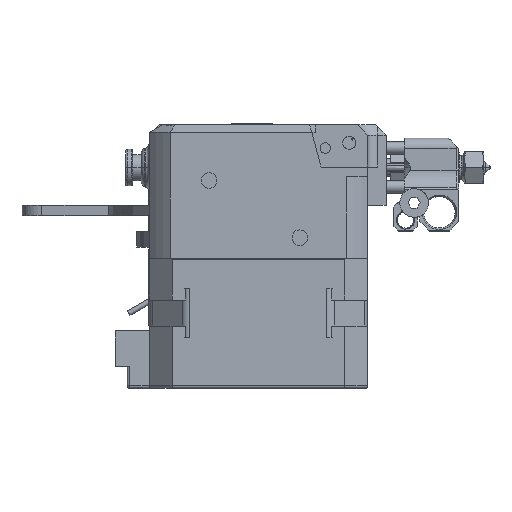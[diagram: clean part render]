
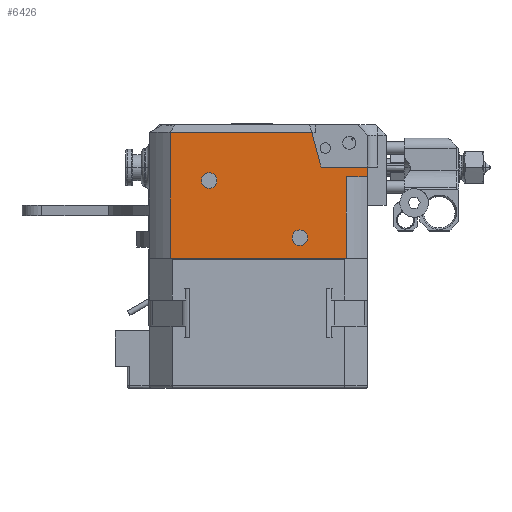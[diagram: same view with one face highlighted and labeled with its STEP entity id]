
A CAD part, left-side view. The second image highlights one B-rep face of the part: STEP entity #6426.
In plain terms, the highlighted planar face has unit normal (-1, 0, 0).
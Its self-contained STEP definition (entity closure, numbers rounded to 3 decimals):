
#474 = EDGE_CURVE ( 'NONE', #6330, #23727, #20274, .T. ) ;
#477 = CIRCLE ( 'NONE', #22681, 1.5 ) ;
#500 = VERTEX_POINT ( 'NONE', #3889 ) ;
#966 = ORIENTED_EDGE ( 'NONE', *, *, #15132, .F. ) ;
#1444 = ORIENTED_EDGE ( 'NONE', *, *, #8059, .F. ) ;
#1468 = DIRECTION ( 'NONE',  ( 0., 0., 1. ) ) ;
#1582 = VECTOR ( 'NONE', #30276, 1000. ) ;
#1860 = CARTESIAN_POINT ( 'NONE',  ( -21., -16.971, 50.75 ) ) ;
#2374 = AXIS2_PLACEMENT_3D ( 'NONE', #2607, #7403, #21463 ) ;
#2379 = CARTESIAN_POINT ( 'NONE',  ( -21., -11., 40.75 ) ) ;
#2454 = CARTESIAN_POINT ( 'NONE',  ( -21., -12.074, 42.6 ) ) ;
#2607 = CARTESIAN_POINT ( 'NONE',  ( -21., -21., 25. ) ) ;
#2706 = LINE ( 'NONE', #16317, #23076 ) ;
#3355 = LINE ( 'NONE', #15248, #22271 ) ;
#3690 = ORIENTED_EDGE ( 'NONE', *, *, #29368, .T. ) ;
#3889 = CARTESIAN_POINT ( 'NONE',  ( -21., -8., 27.5 ) ) ;
#4205 = EDGE_CURVE ( 'NONE', #27020, #19114, #21544, .T. ) ;
#4448 = VERTEX_POINT ( 'NONE', #16234 ) ;
#5005 = CARTESIAN_POINT ( 'NONE',  ( -21., -16.971, 25. ) ) ;
#5063 = CARTESIAN_POINT ( 'NONE',  ( -21., 9.45, 38.5 ) ) ;
#5384 = FACE_OUTER_BOUND ( 'NONE', #29291, .T. ) ;
#5461 = DIRECTION ( 'NONE',  ( 0., -1., 0. ) ) ;
#6330 = VERTEX_POINT ( 'NONE', #2454 ) ;
#6426 = ADVANCED_FACE ( 'NONE', ( #5384, #16673, #14354 ), #12042, .F. ) ;
#6590 = VERTEX_POINT ( 'NONE', #5005 ) ;
#7123 = EDGE_CURVE ( 'NONE', #8886, #28980, #23474, .T. ) ;
#7152 = AXIS2_PLACEMENT_3D ( 'NONE', #26650, #22025, #7988 ) ;
#7308 = CARTESIAN_POINT ( 'NONE',  ( -21., -21., 42.6 ) ) ;
#7403 = DIRECTION ( 'NONE',  ( 1., 0., 0. ) ) ;
#7988 = DIRECTION ( 'NONE',  ( 0., 0., 1. ) ) ;
#8059 = EDGE_CURVE ( 'NONE', #11183, #6590, #8812, .T. ) ;
#8316 = EDGE_CURVE ( 'NONE', #19114, #27020, #477, .T. ) ;
#8722 = CARTESIAN_POINT ( 'NONE',  ( -21., -8., 29. ) ) ;
#8812 = LINE ( 'NONE', #1860, #23166 ) ;
#8886 = VERTEX_POINT ( 'NONE', #20170 ) ;
#9703 = ORIENTED_EDGE ( 'NONE', *, *, #20204, .T. ) ;
#9739 = EDGE_CURVE ( 'NONE', #500, #4448, #19749, .T. ) ;
#10080 = CARTESIAN_POINT ( 'NONE',  ( -21., 9.45, 40. ) ) ;
#11183 = VERTEX_POINT ( 'NONE', #21508 ) ;
#11430 = CARTESIAN_POINT ( 'NONE',  ( -21., 16.971, 50.75 ) ) ;
#11593 = CARTESIAN_POINT ( 'NONE',  ( -21., 9.45, 40. ) ) ;
#12042 = PLANE ( 'NONE',  #2374 ) ;
#12273 = LINE ( 'NONE', #2379, #22843 ) ;
#12723 = DIRECTION ( 'NONE',  ( 0., 0., -1. ) ) ;
#12827 = ORIENTED_EDGE ( 'NONE', *, *, #7123, .T. ) ;
#13581 = ORIENTED_EDGE ( 'NONE', *, *, #474, .T. ) ;
#13695 = ORIENTED_EDGE ( 'NONE', *, *, #20990, .T. ) ;
#14079 = CARTESIAN_POINT ( 'NONE',  ( -21., 16.971, 25. ) ) ;
#14160 = DIRECTION ( 'NONE',  ( 0., 0., 1. ) ) ;
#14354 = FACE_BOUND ( 'NONE', #18911, .T. ) ;
#14974 = CARTESIAN_POINT ( 'NONE',  ( -21., 9.45, 41.5 ) ) ;
#15132 = EDGE_CURVE ( 'NONE', #4448, #500, #17011, .T. ) ;
#15222 = VECTOR ( 'NONE', #18698, 1000. ) ;
#15248 = CARTESIAN_POINT ( 'NONE',  ( -21., 16.971, 25. ) ) ;
#15700 = VERTEX_POINT ( 'NONE', #27532 ) ;
#15795 = EDGE_CURVE ( 'NONE', #15700, #6330, #28597, .T. ) ;
#16234 = CARTESIAN_POINT ( 'NONE',  ( -21., -8., 30.5 ) ) ;
#16317 = CARTESIAN_POINT ( 'NONE',  ( -21., -21., 40.75 ) ) ;
#16416 = DIRECTION ( 'NONE',  ( 0., 1., 0. ) ) ;
#16673 = FACE_BOUND ( 'NONE', #28949, .T. ) ;
#17011 = CIRCLE ( 'NONE', #7152, 1.5 ) ;
#17814 = CARTESIAN_POINT ( 'NONE',  ( -21., -17.072, 23.947 ) ) ;
#18109 = LINE ( 'NONE', #20891, #1582 ) ;
#18304 = DIRECTION ( 'NONE',  ( -1., 0., 0. ) ) ;
#18546 = DIRECTION ( 'NONE',  ( 0., 0., 1. ) ) ;
#18698 = DIRECTION ( 'NONE',  ( 0., 0., -1. ) ) ;
#18911 = EDGE_LOOP ( 'NONE', ( #21455, #21387 ) ) ;
#19083 = AXIS2_PLACEMENT_3D ( 'NONE', #10080, #19508, #28908 ) ;
#19114 = VERTEX_POINT ( 'NONE', #14974 ) ;
#19366 = EDGE_CURVE ( 'NONE', #28980, #6590, #3355, .T. ) ;
#19508 = DIRECTION ( 'NONE',  ( -1., 0., 0. ) ) ;
#19749 = CIRCLE ( 'NONE', #22220, 1.5 ) ;
#20170 = CARTESIAN_POINT ( 'NONE',  ( -21., 16.971, 49.25 ) ) ;
#20204 = EDGE_CURVE ( 'NONE', #23727, #8886, #18109, .T. ) ;
#20274 = LINE ( 'NONE', #17814, #26657 ) ;
#20748 = ORIENTED_EDGE ( 'NONE', *, *, #9739, .F. ) ;
#20891 = CARTESIAN_POINT ( 'NONE',  ( -21., 16.971, 49.25 ) ) ;
#20990 = EDGE_CURVE ( 'NONE', #11183, #29323, #12273, .T. ) ;
#21387 = ORIENTED_EDGE ( 'NONE', *, *, #4205, .F. ) ;
#21455 = ORIENTED_EDGE ( 'NONE', *, *, #8316, .F. ) ;
#21463 = DIRECTION ( 'NONE',  ( 0., 1., 0. ) ) ;
#21508 = CARTESIAN_POINT ( 'NONE',  ( -21., -16.971, 40.75 ) ) ;
#21544 = CIRCLE ( 'NONE', #19083, 1.5 ) ;
#22025 = DIRECTION ( 'NONE',  ( -1., 0., 0. ) ) ;
#22220 = AXIS2_PLACEMENT_3D ( 'NONE', #8722, #18304, #1468 ) ;
#22271 = VECTOR ( 'NONE', #29735, 1000. ) ;
#22681 = AXIS2_PLACEMENT_3D ( 'NONE', #11593, #28554, #18546 ) ;
#22843 = VECTOR ( 'NONE', #5461, 1000. ) ;
#23076 = VECTOR ( 'NONE', #14160, 1000. ) ;
#23166 = VECTOR ( 'NONE', #12723, 1000. ) ;
#23474 = LINE ( 'NONE', #11430, #15222 ) ;
#23628 = VECTOR ( 'NONE', #16416, 1000. ) ;
#23727 = VERTEX_POINT ( 'NONE', #28521 ) ;
#24871 = ORIENTED_EDGE ( 'NONE', *, *, #15795, .T. ) ;
#26650 = CARTESIAN_POINT ( 'NONE',  ( -21., -8., 29. ) ) ;
#26657 = VECTOR ( 'NONE', #27226, 1000. ) ;
#27020 = VERTEX_POINT ( 'NONE', #5063 ) ;
#27226 = DIRECTION ( 'NONE',  ( 0., 0.259, 0.966 ) ) ;
#27532 = CARTESIAN_POINT ( 'NONE',  ( -21., -21., 42.6 ) ) ;
#27614 = ORIENTED_EDGE ( 'NONE', *, *, #19366, .T. ) ;
#28052 = CARTESIAN_POINT ( 'NONE',  ( -21., -21., 40.75 ) ) ;
#28521 = CARTESIAN_POINT ( 'NONE',  ( -21., -10.292, 49.25 ) ) ;
#28554 = DIRECTION ( 'NONE',  ( -1., 0., 0. ) ) ;
#28597 = LINE ( 'NONE', #7308, #23628 ) ;
#28908 = DIRECTION ( 'NONE',  ( 0., 0., 1. ) ) ;
#28949 = EDGE_LOOP ( 'NONE', ( #966, #20748 ) ) ;
#28980 = VERTEX_POINT ( 'NONE', #14079 ) ;
#29291 = EDGE_LOOP ( 'NONE', ( #24871, #13581, #9703, #12827, #27614, #1444, #13695, #3690 ) ) ;
#29323 = VERTEX_POINT ( 'NONE', #28052 ) ;
#29368 = EDGE_CURVE ( 'NONE', #29323, #15700, #2706, .T. ) ;
#29735 = DIRECTION ( 'NONE',  ( 0., -1., 0. ) ) ;
#30276 = DIRECTION ( 'NONE',  ( 0., 1., 0. ) ) ;
